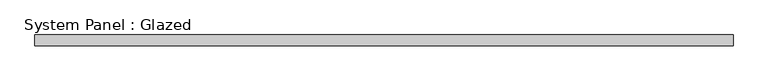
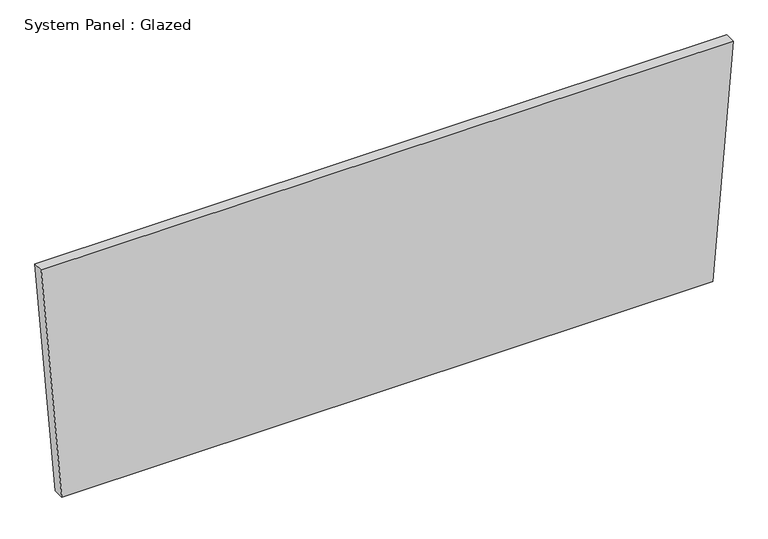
"""IFC4 building model written with IfcOpenShell, lengths in millimetres: plate geometry, System Panel : Glazed."""

from ifc_helpers import new_model, si_unit, frame, origin, place, context, project, spatial, polyline, outline, extrude, source, transform, mapped, element, save


def system_panel_glazed_71638be0(model_context):
    return source(origin(), model_context, "Body", "SweptSolid", [
        extrude(outline(polyline([(0.0, -765.5979172), (0.0, 765.5979172), (582.1260136, 813.7397752), (582.1260136, -813.7397752), (0.0, -765.5979172)])), frame((0.0, 19.05, 0.0), z_axis=(0.0, 1.0, 0.0), x_axis=(0.0, 0.0, 1.0)), (0.0, 0.0, 1.0), 25.4),
    ])


if __name__ == "__main__":
    model = new_model("IFC4")
    model_context = context("Model", 3, world=origin())
    ifc_project = project(units=[si_unit("LENGTHUNIT", "METRE", prefix="MILLI")], contexts=[model_context])
    site = spatial("IfcSite", under=ifc_project)
    building = spatial("IfcBuilding", under=site)
    placement = place(None, origin())
    system_panel_glazed_shape = system_panel_glazed_71638be0(model_context)
    element("IfcPlate", 1, ObjectType="System Panel : Glazed", at=placement, inside=building, context=model_context, shape_type="MappedRepresentation", body=[
        mapped(system_panel_glazed_shape, transform((0.0, 0.0, 0.0), x_axis=(1.0, 0.0, 0.0), y_axis=(0.0, 1.0, 0.0), z_axis=(0.0, 0.0, 1.0))),
    ])
    save(model, "model.ifc")
